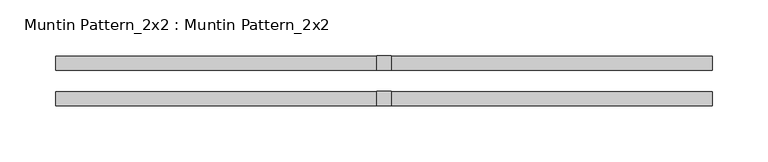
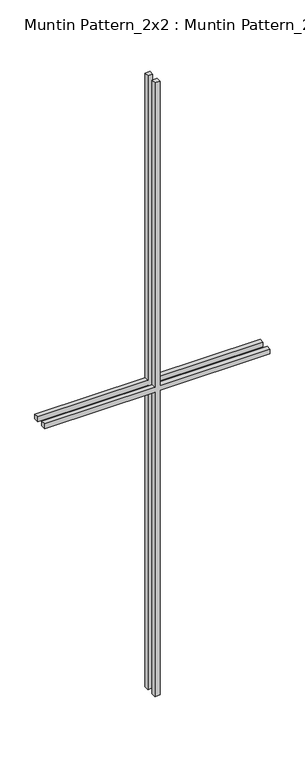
"""IFC4 building model written with IfcOpenShell, lengths in millimetres: proxy geometry, Muntin Pattern_2x2 : Muntin Pattern_2x2."""

from ifc_helpers import new_model, si_unit, frame, origin, place, context, project, spatial, polyline, outline, extrude, source, transform, mapped, element, save


def muntin_pattern_2x2_muntin_pattern_2x2_c2194282(model_context):
    return source(origin(), model_context, "Body", "SweptSolid", [
        extrude(outline(polyline([(850.9, -6.35), (850.9, -293.6875), (838.2, -293.6875), (838.2, -6.35), (0.0, -6.35), (0.0, 6.35), (838.2, 6.35), (838.2, 293.6875), (850.9, 293.6875), (850.9, 6.35), (1689.1, 6.35), (1689.1, -6.35), (850.9, -6.35)])), frame((0.0, -22.225, 0.0), z_axis=(0.0, 1.0, 0.0), x_axis=(0.0, 0.0, 1.0)), (0.0, 0.0, 1.0), 12.7),
        extrude(outline(polyline([(850.9, -6.35), (850.9, -293.6875), (838.2, -293.6875), (838.2, -6.35), (0.0, -6.35), (0.0, 6.35), (838.2, 6.35), (838.2, 293.6875), (850.9, 293.6875), (850.9, 6.35), (1689.1, 6.35), (1689.1, -6.35), (850.9, -6.35)])), frame((0.0, 9.525, 0.0), z_axis=(0.0, 1.0, 0.0), x_axis=(0.0, 0.0, 1.0)), (0.0, 0.0, 1.0), 12.7),
    ])


if __name__ == "__main__":
    model = new_model("IFC4")
    model_context = context("Model", 3, world=origin())
    ifc_project = project(units=[si_unit("LENGTHUNIT", "METRE", prefix="MILLI")], contexts=[model_context])
    site = spatial("IfcSite", under=ifc_project)
    building = spatial("IfcBuilding", under=site)
    placement = place(None, origin())
    muntin_pattern_2x2_muntin_pattern_2x2_shape = muntin_pattern_2x2_muntin_pattern_2x2_c2194282(model_context)
    element("IfcBuildingElementProxy", 1, Name="Muntin Pattern_2x2 : Muntin Pattern_2x2", ObjectType="Muntin Pattern_2x2 : Muntin Pattern_2x2", at=placement, inside=building, context=model_context, shape_type="MappedRepresentation", body=[
        mapped(muntin_pattern_2x2_muntin_pattern_2x2_shape, transform((0.0, 0.0, 0.0), x_axis=(1.0, 0.0, 0.0), y_axis=(0.0, 1.0, 0.0), z_axis=(0.0, 0.0, 1.0))),
    ])
    save(model, "model.ifc")
